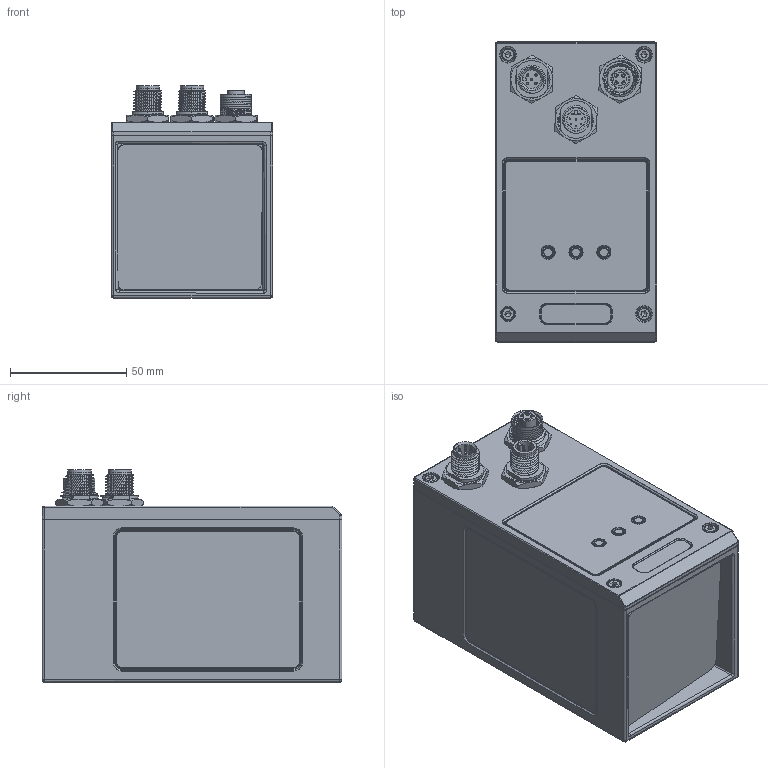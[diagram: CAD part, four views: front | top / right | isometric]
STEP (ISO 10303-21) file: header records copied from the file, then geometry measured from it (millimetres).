
FILE_DESCRIPTION (( 'STEP AP214' ), '1' );
FILE_NAME ('20230525_MRC.STEP', '2023-05-25T08:34:47', ( '' ), ( '' ), 'SwSTEP 2.0', 'SolidWorks 2020', '' );
FILE_SCHEMA (( 'AUTOMOTIVE_DESIGN' ));
Length unit declared in the file: millimetre
Products named in the file (1): 20230525_MRC
Bounding box: 69.49 x 128.99 x 91.2 mm (x, y, z)
Volume: 654378.6 mm3; surface area: 63974.7 mm2
Topology: 1 solids, 1 shells, 765 faces, 1947 edges, 1212 vertices
Faces by surface type: cylinder 260, plane 197, cone 104, bspline 100, torus 92, sphere 12
Entity records: 63447 total; most frequent: CARTESIAN_POINT 41222, ORIENTED_EDGE 3874, DIRECTION 3314, EDGE_CURVE 1937, AXIS2_PLACEMENT_3D 1312, VERTEX_POINT 1212, EDGE_LOOP 827, ADVANCED_FACE 765
